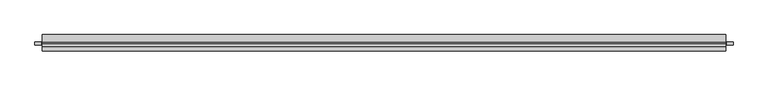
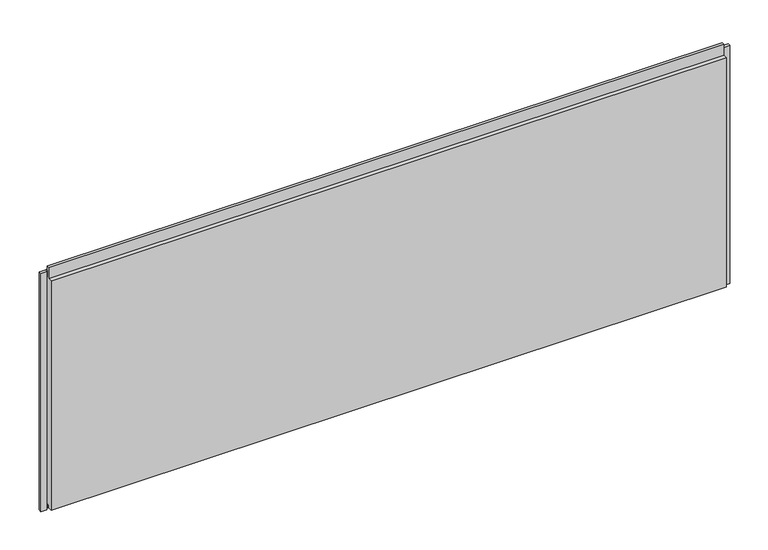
"""IFC4 building model written with IfcOpenShell, lengths in millimetres: plate geometry, Trimo_Qbiss Screen_Normal Panel-HORIZONTAL : HR - B."""

from ifc_helpers import new_model, si_unit, frame, origin, place, context, project, spatial, polyline, outline, extrude, source, transform, mapped, element, save


def plate_4ab0cb9d(model_context):
    return source(origin(), model_context, "Body", "SweptSolid", [
        extrude(outline(polyline([(-1058.0, 76.5978162), (-1058.0, 67.8978162), (-1077.0, 67.8978162), (-1077.0, 76.5978162), (-1058.0, 76.5978162)])), frame((0.0, 0.0, -1.0), z_axis=(0.0, 0.0, 1.0), x_axis=(1.0, 0.0, 0.0)), (0.0, 0.0, 1.0), 787.95),
        extrude(outline(polyline([(1058.0, 67.8978162), (1058.0, 76.5978162), (1077.0, 76.5978162), (1077.0, 67.8978162), (1058.0, 67.8978162)])), frame((0.0, 0.0, -1.0), z_axis=(0.0, 0.0, 1.0), x_axis=(1.0, 0.0, 0.0)), (0.0, 0.0, 1.0), 787.95),
        extrude(outline(polyline([(1055.0, 76.0), (1055.0, 71.0), (-1055.0, 71.0), (-1055.0, 76.0), (1055.0, 76.0)])), frame((0.0, 0.0, 765.95), z_axis=(0.0, 0.0, 1.0), x_axis=(1.0, 0.0, 0.0)), (0.0, 0.0, 1.0), 21.0),
        extrude(outline(polyline([(71.0, 764.95), (100.0, 764.95), (100.0, 0.0), (72.0, 0.0), (72.0, 15.5), (62.0, 15.5), (62.0, 7.0), (50.0, 7.0), (50.0, 764.95), (63.0, 764.95), (63.0, 802.45), (71.0, 802.45), (71.0, 764.95)])), frame((-1055.0, 0.0, 0.0), z_axis=(1.0, 0.0, 0.0), x_axis=(0.0, 1.0, 0.0)), (0.0, 0.0, 1.0), 2110.0),
    ])


if __name__ == "__main__":
    model = new_model("IFC4")
    model_context = context("Model", 3, world=origin())
    ifc_project = project(units=[si_unit("LENGTHUNIT", "METRE", prefix="MILLI")], contexts=[model_context])
    site = spatial("IfcSite", under=ifc_project)
    building = spatial("IfcBuilding", under=site)
    placement = place(None, origin())
    plate_shape = plate_4ab0cb9d(model_context)
    element("IfcPlate", 1, ObjectType="Trimo_Qbiss Screen_Normal Panel-HORIZONTAL : HR - B", at=placement, inside=building, context=model_context, shape_type="MappedRepresentation", body=[
        mapped(plate_shape, transform((0.0, 0.0, 0.0), x_axis=(1.0, 0.0, 0.0), y_axis=(0.0, 1.0, 0.0), z_axis=(0.0, 0.0, 1.0))),
    ])
    save(model, "model.ifc")
